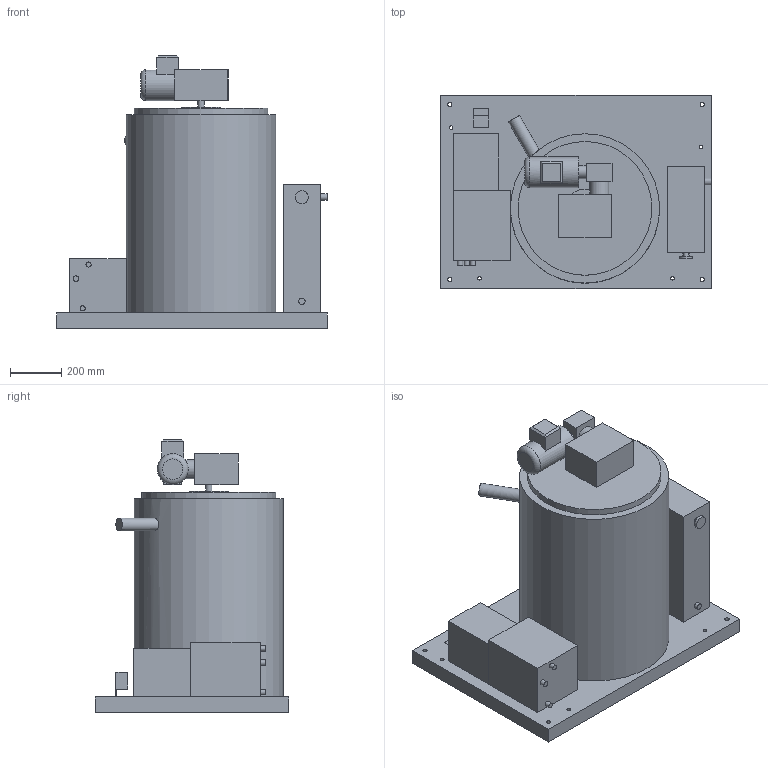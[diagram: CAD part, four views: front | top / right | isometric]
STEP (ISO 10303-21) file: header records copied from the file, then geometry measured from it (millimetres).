
FILE_DESCRIPTION(/* description */ ('Unknown'),/* implementation_level */ '2;1');
FILE_NAME(/* name */ 'CAD-066',/* time_stamp */ '2020-04-07T12:06:43+02:00',/* author */ ('Unknown'),/* organization */ ('Unknown'),/* preprocessor_version */ 'ST-DEVELOPER v16.7',/* originating_system */ 'Solid Edge',/* authorisation */ 'Unknown');
FILE_SCHEMA (('CONFIG_CONTROL_DESIGN'));
Length unit declared in the file: millimetre
Products named in the file (1): scala_1500_split
Bounding box: 1050 x 750 x 1060 mm (x, y, z)
Volume: 297812043.3 mm3; surface area: 4581620.3 mm2
Topology: 1 solids, 1 shells, 90 faces, 208 edges, 143 vertices
Faces by surface type: plane 65, cylinder 24, torus 1
Full cylindrical faces by diameter (mm): 14 x4, 16 x4, 20 x3, 22 x1, 25 x3, 50 x3, 75 x1, 120 x1, 150 x1, 480 x1, 520 x1, 580 x1
Entity records: 3009 total; most frequent: CARTESIAN_POINT 425, DIRECTION 396, ORIENTED_EDGE 330, EDGE_CURVE 165, EDGE_LOOP 154, FACE_BOUND 154, AXIS2_PLACEMENT_3D 141, VERTEX_POINT 125
